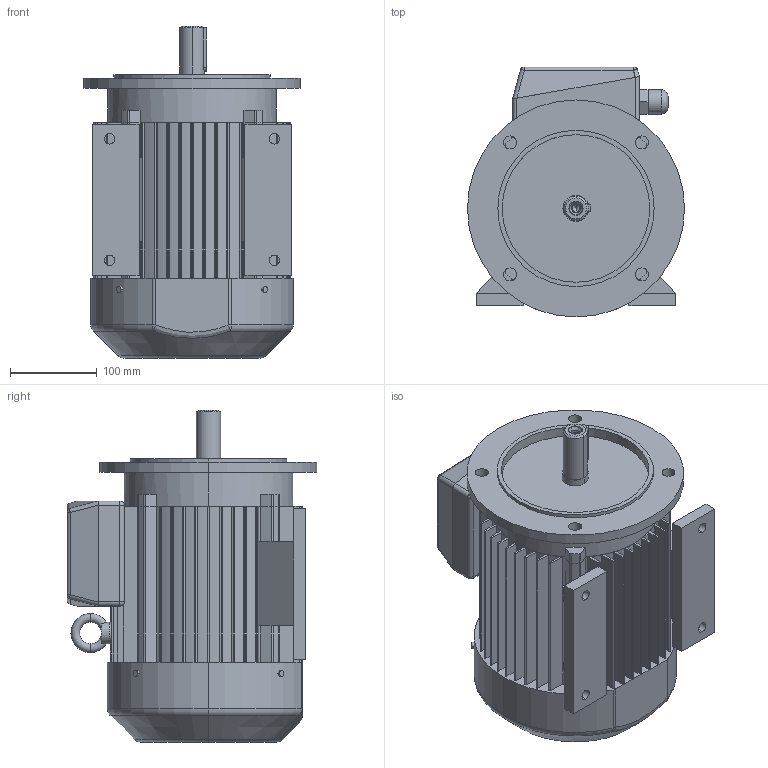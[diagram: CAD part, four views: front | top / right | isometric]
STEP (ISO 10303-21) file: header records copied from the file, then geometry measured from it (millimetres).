
FILE_DESCRIPTION (( 'STEP AP203' ), '1' );
FILE_NAME ('SLg 112M-B35.STEP', '2010-02-09T12:35:24', ( 'INDUKTA' ), ( 'CANTONI MOTOR' ), 'SwSTEP 2.0', 'SolidWorks 2003064', '' );
FILE_SCHEMA (( 'CONFIG_CONTROL_DESIGN' ));
Length unit declared in the file: millimetre
Products named in the file (1): SLg 112M-B35
Bounding box: 250 x 288 x 382.5 mm (x, y, z)
Volume: 12572066.7 mm3; surface area: 813242.5 mm2
Topology: 14 solids, 14 shells, 556 faces, 1494 edges, 962 vertices
Faces by surface type: plane 272, cylinder 206, bspline 43, torus 13, cone 12, sphere 10
Entity records: 21122 total; most frequent: CARTESIAN_POINT 7218, ORIENTED_EDGE 2964, DIRECTION 2799, EDGE_CURVE 1482, VERTEX_POINT 962, AXIS2_PLACEMENT_3D 942, VECTOR 915, LINE 915
